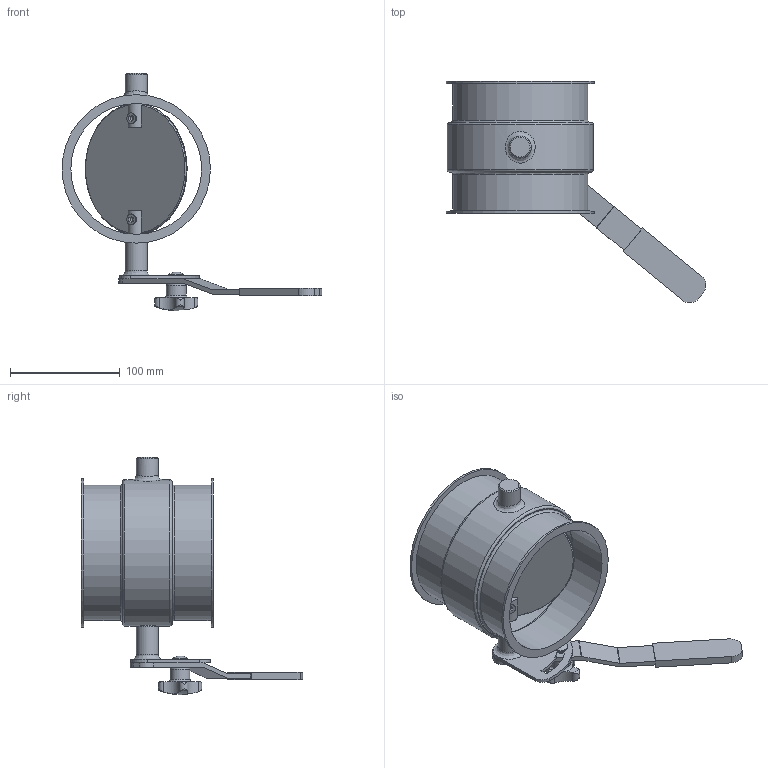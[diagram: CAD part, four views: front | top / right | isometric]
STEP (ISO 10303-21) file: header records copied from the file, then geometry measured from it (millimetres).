
FILE_DESCRIPTION((''),'2;1');
FILE_NAME('U:\Wolfgang\Marcel-3D\fertig\Kapitel 8\1221076.stp','2011-05-03T15:05:07',('TK1'),(''),'Autodesk Inventor 2010','Autodesk Inventor 2010','');
FILE_SCHEMA(('AUTOMOTIVE_DESIGN { 1 0 10303 214 1 1 1 1 }'));
Length unit declared in the file: millimetre
Products named in the file (9): 1221076; Bolzen D15; ganter_din_6335-ku-40-m8-k; Griff D15; Umstellsegment D15; Scheibe120b; DIN 6912 M6 x 16; DIN 603 M5 x 25; 1221076-1
Assembly tree (9 placements, depth 2):
  1221076
    Bolzen D15
    ganter_din_6335-ku-40-m8-k
    Griff D15
    Umstellsegment D15
    Scheibe120b
    DIN 6912 M6 x 16  x2
    DIN 603 M5 x 25
    1221076-1
Bounding box: 236.43 x 201.28 x 216 mm (x, y, z)
Volume: 285516.1 mm3; surface area: 201030.7 mm2
Topology: 9 solids, 9 shells, 182 faces, 429 edges, 280 vertices
Faces by surface type: plane 77, cylinder 62, cone 16, torus 13, bspline 12, sphere 2
Full cylindrical faces by diameter (mm): 3 x2, 5 x1, 6 x6, 6.4 x1, 7 x1, 10 x4, 13 x1, 13.55 x1, 15 x8, 18 x1, 20 x3, 119 x3, 120 x1, 123 x2, 128 x1, 129 x1, 133 x1, 135 x2
Entity records: 5975 total; most frequent: CARTESIAN_POINT 2182, DIRECTION 746, ORIENTED_EDGE 632, AXIS2_PLACEMENT_3D 320, EDGE_CURVE 316, EDGE_LOOP 269, VERTEX_POINT 241, FACE_OUTER_BOUND 167
